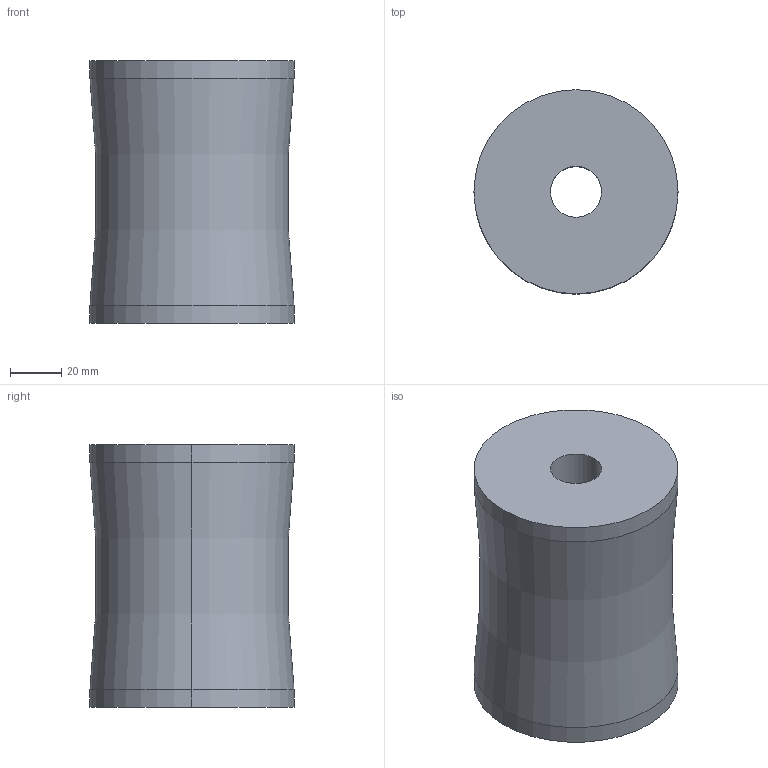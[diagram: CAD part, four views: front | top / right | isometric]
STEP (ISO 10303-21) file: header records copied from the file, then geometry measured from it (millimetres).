
FILE_DESCRIPTION(/* description */ (''),/* implementation_level */ '2;1');
FILE_NAME(/* name */ '3d_ex82010_06504_r00.stp',/* time_stamp */ '2011-01-10T14:15:38+09:00',/* author */ ('MISUMI'),/* organization */ (''),/* preprocessor_version */ 'ST-DEVELOPER v11',/* originating_system */ 'UGS - NX 5.0',/* authorisation */ '');
FILE_SCHEMA (('CONFIG_CONTROL_DESIGN'));
Length unit declared in the file: millimetre
Products named in the file (1): 3d_ex82010_06504_r00
Bounding box: 80 x 80 x 103 mm (x, y, z)
Volume: 448978.2 mm3; surface area: 40895.8 mm2
Topology: 1 solids, 1 shells, 10 faces, 20 edges, 12 vertices
Faces by surface type: cylinder 6, plane 2, torus 2
Entity records: 356 total; most frequent: DIRECTION 56, CARTESIAN_POINT 43, ORIENTED_EDGE 40, AXIS2_PLACEMENT_3D 25, EDGE_CURVE 20, CIRCLE 14, EDGE_LOOP 12, VERTEX_POINT 12
